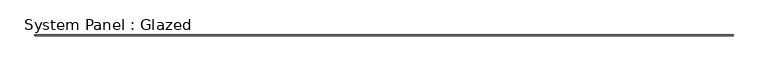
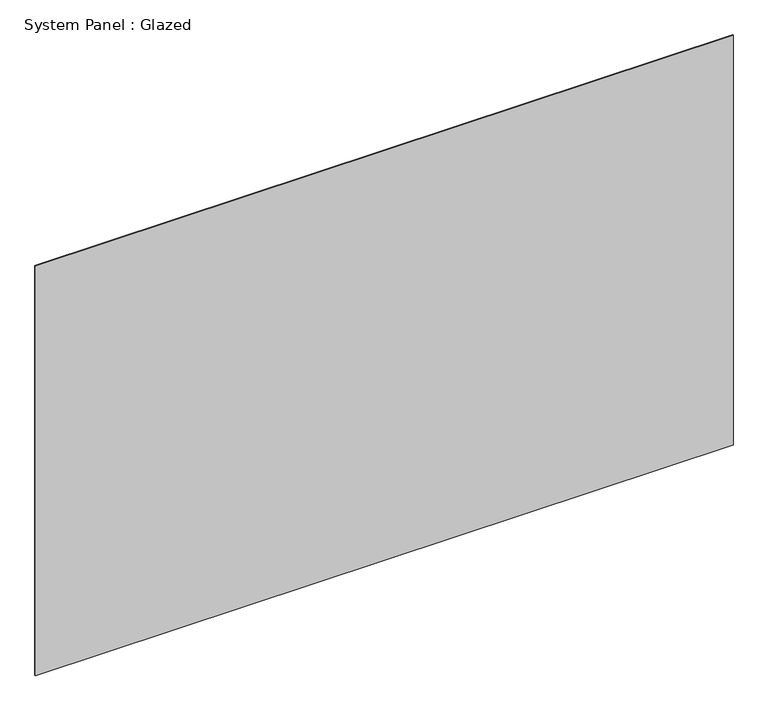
"""IFC4 building model written with IfcOpenShell, lengths in millimetres: plate geometry, System Panel : Glazed."""

from ifc_helpers import new_model, si_unit, origin, origin_with_axes, place, context, project, spatial, polyline, outline, extrude, source, transform, mapped, element, save


def system_panel_glazed_952163be(model_context):
    return source(origin(), model_context, "Body", "SweptSolid", [
        extrude(outline(polyline([(9982.1994186, -49.5), (-9982.1994186, -49.5), (-9982.1994186, -24.5), (9982.1994186, -24.5), (9982.1994186, -49.5)])), origin_with_axes(), (0.0, 0.0, 1.0), 12400.0),
    ])


if __name__ == "__main__":
    model = new_model("IFC4")
    model_context = context("Model", 3, world=origin())
    ifc_project = project(units=[si_unit("LENGTHUNIT", "METRE", prefix="MILLI")], contexts=[model_context])
    site = spatial("IfcSite", under=ifc_project)
    building = spatial("IfcBuilding", under=site)
    placement = place(None, origin())
    system_panel_glazed_shape = system_panel_glazed_952163be(model_context)
    element("IfcPlate", 1, ObjectType="System Panel : Glazed", at=placement, inside=building, context=model_context, shape_type="MappedRepresentation", body=[
        mapped(system_panel_glazed_shape, transform((0.0, 0.0, 0.0), x_axis=(1.0, 0.0, 0.0), y_axis=(0.0, 1.0, 0.0), z_axis=(0.0, 0.0, 1.0))),
    ])
    save(model, "model.ifc")
